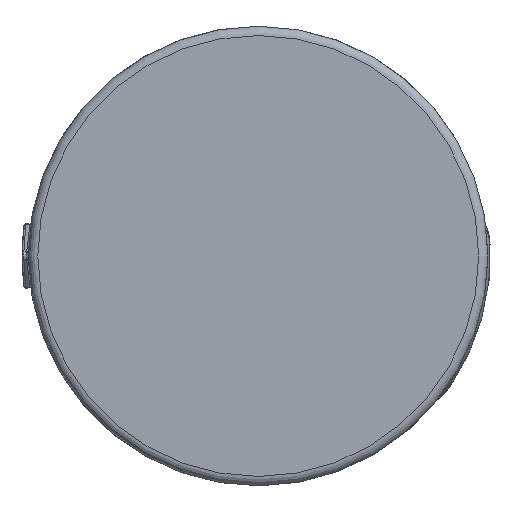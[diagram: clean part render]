
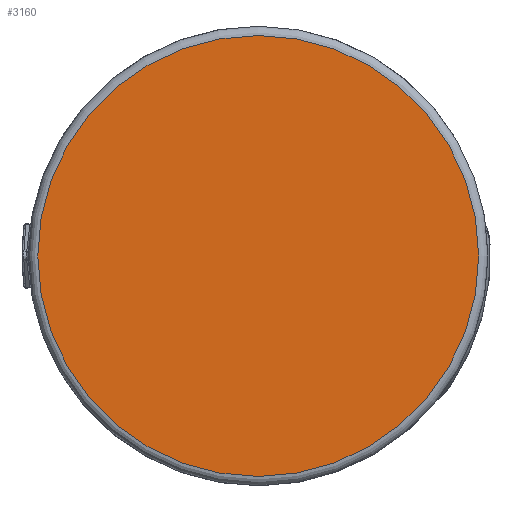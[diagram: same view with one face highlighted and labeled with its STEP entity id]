
A CAD part, left-side view. The second image highlights one B-rep face of the part: STEP entity #3160.
In plain terms, the highlighted planar face has unit normal (-1, 0, 0).
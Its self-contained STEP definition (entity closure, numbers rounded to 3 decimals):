
#3160 = ADVANCED_FACE ( 'NONE', ( #34257 ), #6773, .T. ) ;
#5043 = AXIS2_PLACEMENT_3D ( 'NONE', #38079, #37488, #37307 ) ;
#6773 = PLANE ( 'NONE',  #5043 ) ;
#9685 = VERTEX_POINT ( 'NONE', #29234 ) ;
#15333 = CIRCLE ( 'NONE', #18987, 23.75 ) ;
#18987 = AXIS2_PLACEMENT_3D ( 'NONE', #37081, #42202, #39086 ) ;
#24234 = EDGE_LOOP ( 'NONE', ( #36566 ) ) ;
#29234 = CARTESIAN_POINT ( 'NONE',  ( -183.5, 0., 23.75 ) ) ;
#30643 = EDGE_CURVE ( 'NONE', #9685, #9685, #15333, .T. ) ;
#34257 = FACE_OUTER_BOUND ( 'NONE', #24234, .T. ) ;
#36566 = ORIENTED_EDGE ( 'NONE', *, *, #30643, .T. ) ;
#37081 = CARTESIAN_POINT ( 'NONE',  ( -183.5, 0., 0. ) ) ;
#37307 = DIRECTION ( 'NONE',  ( 0., 0., 1. ) ) ;
#37488 = DIRECTION ( 'NONE',  ( -1., 0., 0. ) ) ;
#38079 = CARTESIAN_POINT ( 'NONE',  ( -183.5, 0., 0. ) ) ;
#39086 = DIRECTION ( 'NONE',  ( 0., 0., 1. ) ) ;
#42202 = DIRECTION ( 'NONE',  ( -1., 0., 0. ) ) ;
